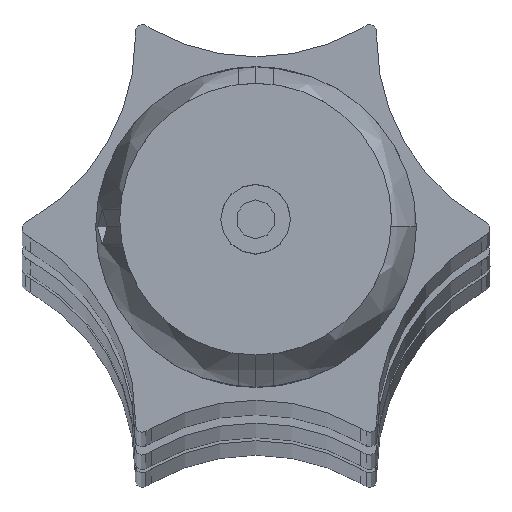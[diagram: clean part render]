
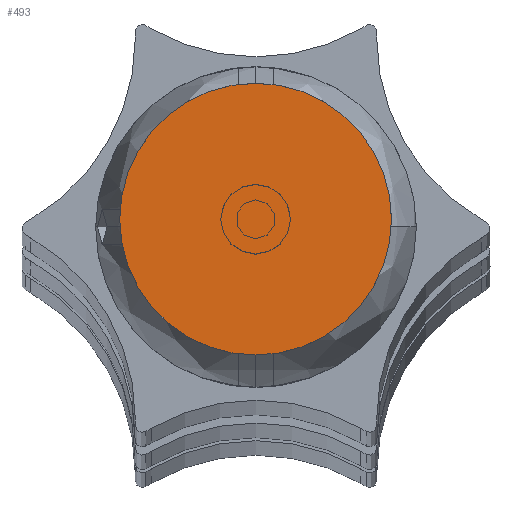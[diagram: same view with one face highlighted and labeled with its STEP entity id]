
A CAD part, top view. The second image highlights one B-rep face of the part: STEP entity #493.
In plain terms, the highlighted planar face has unit normal (0, 0, 1).
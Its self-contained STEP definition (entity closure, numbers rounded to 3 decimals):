
#493=ADVANCED_FACE('',(#670),#3294,.T.);
#670=FACE_OUTER_BOUND('',#847,.T.);
#847=EDGE_LOOP('',(#1040,#1041));
#1040=ORIENTED_EDGE('',*,*,#2008,.F.);
#1041=ORIENTED_EDGE('',*,*,#2004,.F.);
#2004=EDGE_CURVE('',#2842,#2844,#2619,.T.);
#2008=EDGE_CURVE('',#2844,#2842,#2621,.T.);
#2619=TRIMMED_CURVE($,#3468,(#5025),(#5026),.T.,.CARTESIAN.);
#2621=TRIMMED_CURVE($,#3470,(#5035),(#5036),.T.,.CARTESIAN.);
#2842=VERTEX_POINT('',#5020);
#2844=VERTEX_POINT('',#5022);
#3294=PLANE('',#3961);
#3468=CIRCLE('',#3964,9.75);
#3470=CIRCLE('',#3966,9.75);
#3961=AXIS2_PLACEMENT_3D('',#5017,#4372,$);
#3964=AXIS2_PLACEMENT_3D($,#5024,#4375,#4376);
#3966=AXIS2_PLACEMENT_3D($,#5034,#4379,#4380);
#4372=DIRECTION('',(0.,0.,1.));
#4375=DIRECTION('',(0.,0.,-1.));
#4376=DIRECTION('',(1.,0.,0.));
#4379=DIRECTION('',(0.,0.,-1.));
#4380=DIRECTION('',(-1.,0.,0.));
#5017=CARTESIAN_POINT('',(-1605.706,-12.054,910.));
#5020=CARTESIAN_POINT('',(-1608.144,0.133,910.));
#5022=CARTESIAN_POINT('',(-1627.644,0.133,910.));
#5024=CARTESIAN_POINT('',(-1617.894,0.133,910.));
#5025=CARTESIAN_POINT('',(-1608.144,0.133,910.));
#5026=CARTESIAN_POINT('',(-1627.644,0.133,910.));
#5034=CARTESIAN_POINT('',(-1617.894,0.133,910.));
#5035=CARTESIAN_POINT('',(-1627.644,0.133,910.));
#5036=CARTESIAN_POINT('',(-1608.144,0.133,910.));
